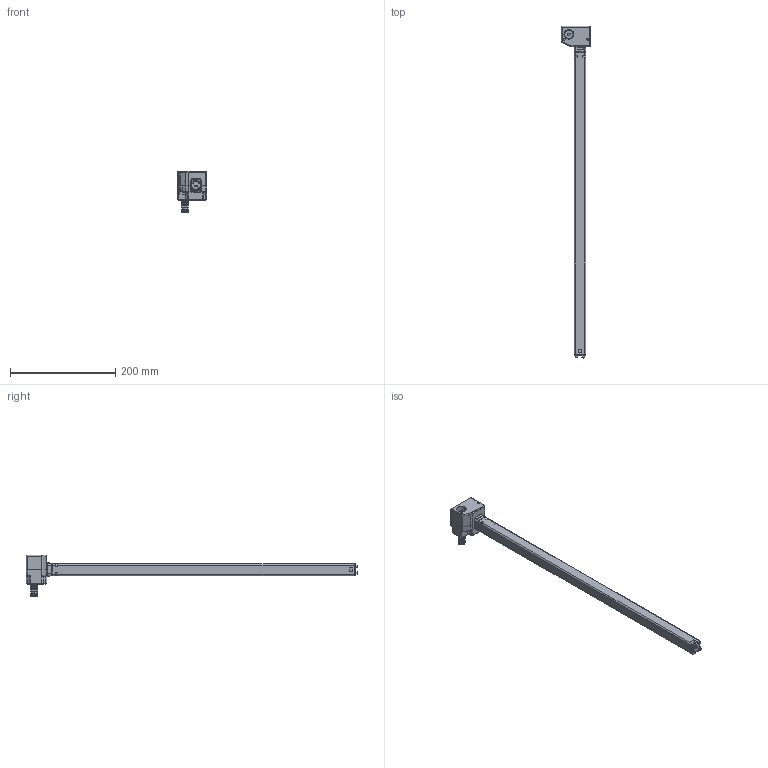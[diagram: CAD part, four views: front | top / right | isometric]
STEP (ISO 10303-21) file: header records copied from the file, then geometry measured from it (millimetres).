
FILE_DESCRIPTION (( 'STEP AP203' ), '1' );
FILE_NAME ('產品三維模型圖-TBS5（左）-A.STEP', '2018-07-20T02:45:33', ( '' ), ( '' ), 'SwSTEP 2.0', 'SolidWorks 2015', '' );
FILE_SCHEMA (( 'CONFIG_CONTROL_DESIGN' ));
Products named in the file (1): 產品三維模型圖-TBS5（左）-A
Bounding box: 56.12 x 631.5 x 78.75 mm (x, y, z)
Volume: 152123.5 mm3; surface area: 154989.5 mm2
Topology: 13 solids, 13 shells, 2595 faces, 7227 edges, 4687 vertices
Faces by surface type: cylinder 1355, plane 942, bspline 246, cone 52
Entity records: 105229 total; most frequent: CARTESIAN_POINT 39567, ORIENTED_EDGE 14406, DIRECTION 13448, EDGE_CURVE 7203, AXIS2_PLACEMENT_3D 4893, VERTEX_POINT 4687, LINE 3662, VECTOR 3662
